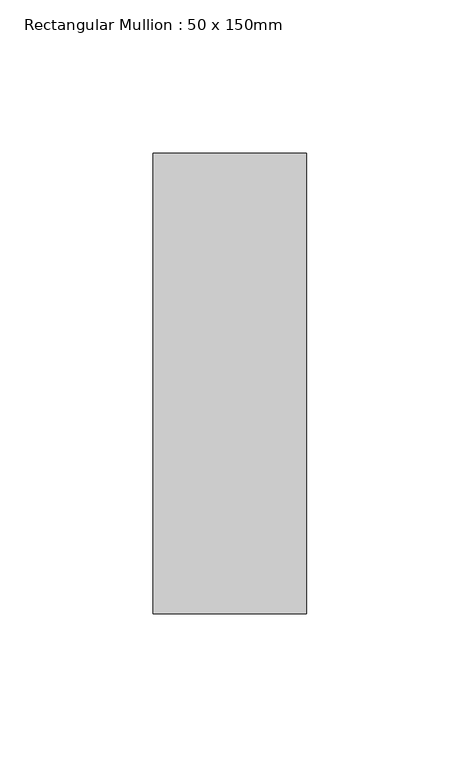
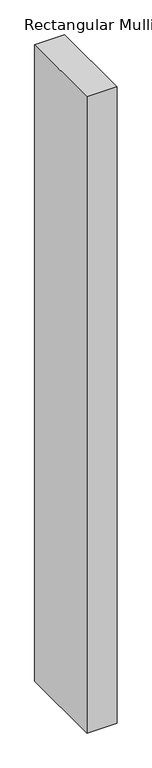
"""IFC4 building model written with IfcOpenShell, lengths in millimetres: member geometry, Rectangular Mullion : 50 x 150mm."""

from ifc_helpers import new_model, si_unit, frame, origin, place, context, project, spatial, polyline, outline, extrude, source, transform, mapped, element, save


def rectangular_mullion_50_x_150mm_a80f6a20(model_context):
    return source(origin(), model_context, "Body", "SweptSolid", [
        extrude(outline(polyline([(0.0, 0.0), (-0.0481144, -50.0), (-1118.1067301, -50.0), (-1118.1935023, 0.0), (0.0, 0.0)])), frame((0.0, -75.0, 0.0), z_axis=(0.0, 1.0, 0.0), x_axis=(0.0, 0.0, 1.0)), (0.0, 0.0, 1.0), 150.0),
    ])


if __name__ == "__main__":
    model = new_model("IFC4")
    model_context = context("Model", 3, world=origin())
    ifc_project = project(units=[si_unit("LENGTHUNIT", "METRE", prefix="MILLI")], contexts=[model_context])
    site = spatial("IfcSite", under=ifc_project)
    building = spatial("IfcBuilding", under=site)
    placement = place(None, origin())
    rectangular_mullion_50_x_150mm_shape = rectangular_mullion_50_x_150mm_a80f6a20(model_context)
    element("IfcMember", 1, ObjectType="Rectangular Mullion : 50 x 150mm", at=placement, inside=building, context=model_context, shape_type="MappedRepresentation", body=[
        mapped(rectangular_mullion_50_x_150mm_shape, transform((0.0, 0.0, 0.0), x_axis=(1.0, 0.0, 0.0), y_axis=(0.0, 1.0, 0.0), z_axis=(0.0, 0.0, 1.0))),
    ])
    save(model, "model.ifc")
